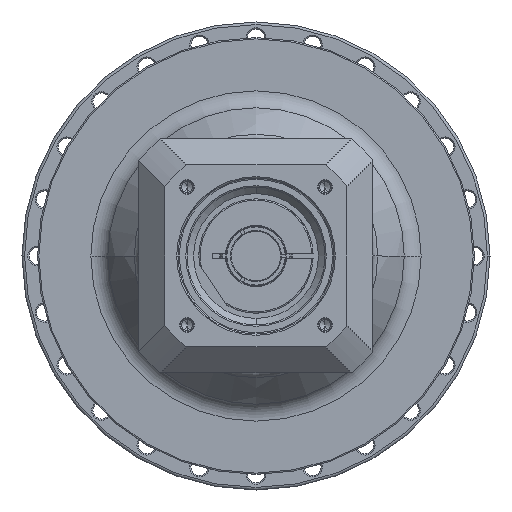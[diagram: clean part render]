
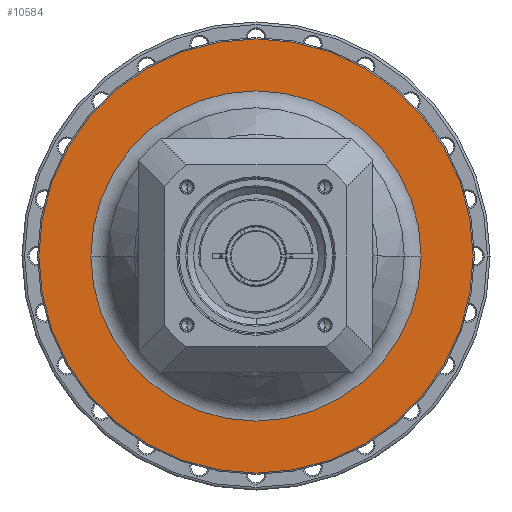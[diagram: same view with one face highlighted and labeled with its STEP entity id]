
A CAD part, left-side view. The second image highlights one B-rep face of the part: STEP entity #10584.
In plain terms, the highlighted planar face has unit normal (-1, 0, 0) as drawn and (1, 0, 0) by its records, which use the part's own axes.
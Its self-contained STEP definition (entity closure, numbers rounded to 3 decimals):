
#10124=CARTESIAN_POINT('',(-24.,0.,0.));
#10125=DIRECTION('',(-1.,0.,0.));
#10126=DIRECTION('',(0.,1.,0.));
#10127=AXIS2_PLACEMENT_3D('',#10124,#10125,#10126);
#10134=CARTESIAN_POINT('',(-24.,0.,0.));
#10135=DIRECTION('',(1.,0.,0.));
#10136=DIRECTION('',(0.,1.,0.));
#10137=AXIS2_PLACEMENT_3D('',#10134,#10135,#10136);
#10139=CARTESIAN_POINT('',(-24.,0.,0.));
#10140=DIRECTION('',(-1.,0.,0.));
#10141=DIRECTION('',(0.,-1.,0.));
#10142=AXIS2_PLACEMENT_3D('',#10139,#10140,#10141);
#10144=CARTESIAN_POINT('',(-24.,0.,0.));
#10145=DIRECTION('',(-1.,0.,0.));
#10146=DIRECTION('',(0.,1.,0.));
#10147=AXIS2_PLACEMENT_3D('',#10144,#10145,#10146);
#10269=CARTESIAN_POINT('',(-24.,-83.5,0.));
#10270=CARTESIAN_POINT('',(-24.,83.5,0.));
#10271=VERTEX_POINT('',#10269);
#10272=VERTEX_POINT('',#10270);
#10293=CARTESIAN_POINT('',(-24.,63.5,0.));
#10295=VERTEX_POINT('',#10293);
#10297=CARTESIAN_POINT('',(-24.,-63.5,0.));
#10299=VERTEX_POINT('',#10297);
#10569=CARTESIAN_POINT('',(-24.,0.,0.));
#10570=DIRECTION('',(1.,0.,0.));
#10571=DIRECTION('',(0.,-1.,0.));
#10572=AXIS2_PLACEMENT_3D('',#10569,#10570,#10571);
#10573=PLANE('',#10572);
#10575=ORIENTED_EDGE('',*,*,#10574,.T.);
#10577=ORIENTED_EDGE('',*,*,#10576,.T.);
#10578=EDGE_LOOP('',(#10575,#10577));
#10579=FACE_OUTER_BOUND('',#10578,.F.);
#10580=ORIENTED_EDGE('',*,*,#10564,.T.);
#10581=ORIENTED_EDGE('',*,*,#10548,.F.);
#10582=EDGE_LOOP('',(#10580,#10581));
#10583=FACE_BOUND('',#10582,.F.);
#10584=ADVANCED_FACE('',(#10579,#10583),#10573,.T.);
#10128=CIRCLE('',#10127,63.5);
#10138=CIRCLE('',#10137,63.5);
#10143=CIRCLE('',#10142,83.5);
#10148=CIRCLE('',#10147,83.5);
#10548=EDGE_CURVE('',#10295,#10299,#10128,.T.);
#10564=EDGE_CURVE('',#10295,#10299,#10138,.T.);
#10574=EDGE_CURVE('',#10271,#10272,#10143,.T.);
#10576=EDGE_CURVE('',#10272,#10271,#10148,.T.);
